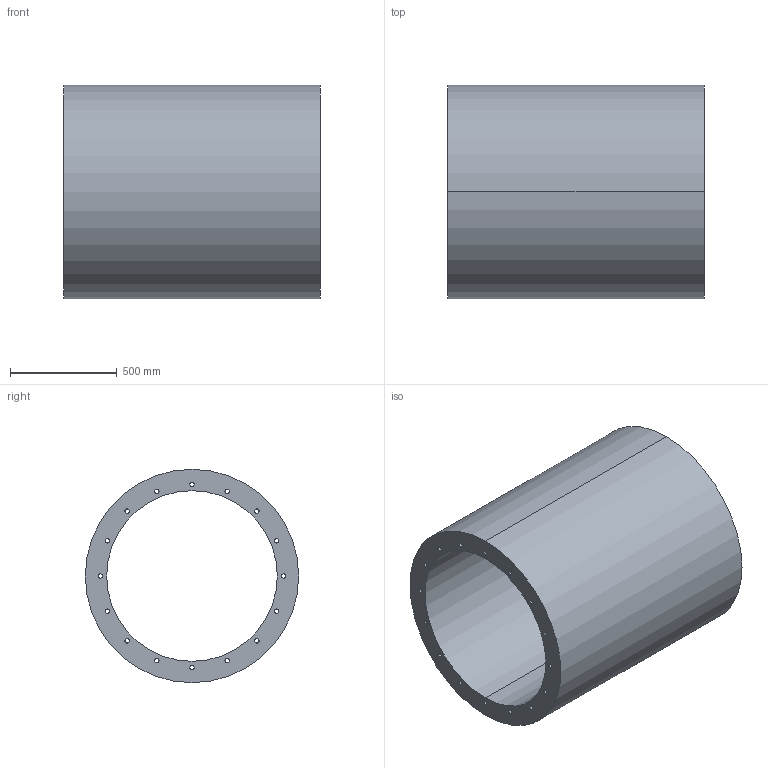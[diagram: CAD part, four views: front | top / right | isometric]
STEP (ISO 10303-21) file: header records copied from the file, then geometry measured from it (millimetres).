
FILE_DESCRIPTION(('STEP AP214'),'1');
FILE_NAME('accessory_5211812000.stp','2017-10-09T11:37:32',('TraceParts'),('TraceParts S.A.'),'Spatial InterOp 3D',' ',' ');
FILE_SCHEMA(('automotive_design'));
Length unit declared in the file: millimetre
Products named in the file (1): accessory_5211812000
Bounding box: 1200 x 1000 x 1000 mm (x, y, z)
Volume: 333260148.7 mm3; surface area: 8547645.3 mm2
Topology: 1 solids, 1 shells, 38 faces, 108 edges, 72 vertices
Faces by surface type: cylinder 36, plane 2
Entity records: 1672 total; most frequent: DIRECTION 258, CARTESIAN_POINT 219, ORIENTED_EDGE 216, AXIS2_PLACEMENT_3D 111, EDGE_CURVE 108, EDGE_LOOP 72, VERTEX_POINT 72, CIRCLE 72
